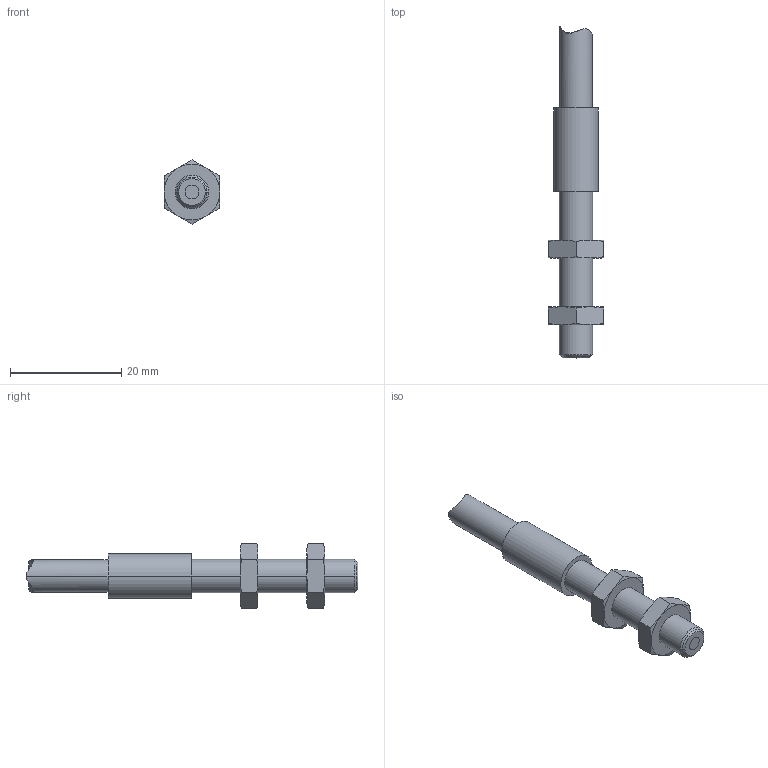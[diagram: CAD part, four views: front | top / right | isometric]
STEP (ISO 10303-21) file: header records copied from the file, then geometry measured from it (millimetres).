
FILE_DESCRIPTION((''),'2;1');
FILE_NAME('0000366376_ASM','2021-03-04T13:33:29',('11000714'),(''),'CREO PARAMETRIC BY PTC INC, 2020184','CREO PARAMETRIC BY PTC INC, 2020184','');
FILE_SCHEMA(('AUTOMOTIVE_DESIGN { 1 0 10303 214 1 1 1 1 }'));
Length unit declared in the file: millimetre
Products named in the file (3): 0000366375; 0000040816; 0000366376_ASM
Assembly tree (3 placements, depth 2):
  0000366376_ASM
    0000366375
    0000040816  x2
Bounding box: 10 x 59.76 x 11.55 mm (x, y, z)
Volume: 2382.5 mm3; surface area: 2481.1 mm2
Topology: 3 solids, 6 shells, 73 faces, 168 edges, 106 vertices
Faces by surface type: cone 34, plane 20, cylinder 18, extrusion 1
Entity records: 6835 total; most frequent: CARTESIAN_POINT 3059, DIRECTION 309, PROPERTY_DEFINITION 296, REPRESENTATION 292, PROPERTY_DEFINITION_REPRESENTATION 292, DESCRIPTIVE_REPRESENTATION_ITEM 258, GENERAL_PROPERTY 250, GENERAL_PROPERTY_ASSOCIATION 250
